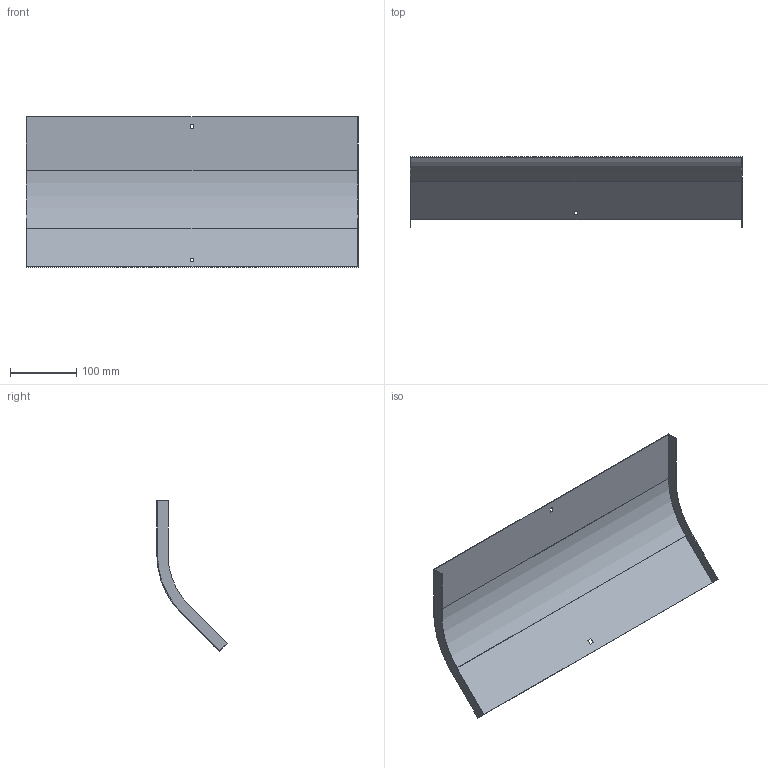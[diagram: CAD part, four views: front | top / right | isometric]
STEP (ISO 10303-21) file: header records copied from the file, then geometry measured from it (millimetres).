
FILE_DESCRIPTION (( 'STEP AP214' ), '1' );
FILE_NAME ('OD4_501.step', '2025-07-16T09:12:12', ( '' ), ( '' ), 'SwSTEP 2.0', 'SolidWorks 2023', '' );
FILE_SCHEMA (( 'AUTOMOTIVE_DESIGN' ));
Length unit declared in the file: millimetre
Products named in the file (1): OD4_501
Bounding box: 502 x 106.5 x 228.09 mm (x, y, z)
Volume: 139295 mm3; surface area: 280207.7 mm2
Topology: 1 solids, 1 shells, 26 faces, 72 edges, 48 vertices
Faces by surface type: plane 22, cylinder 4
Entity records: 855 total; most frequent: CARTESIAN_POINT 147, ORIENTED_EDGE 144, DIRECTION 134, EDGE_CURVE 72, LINE 64, VECTOR 64, VERTEX_POINT 48, AXIS2_PLACEMENT_3D 35
